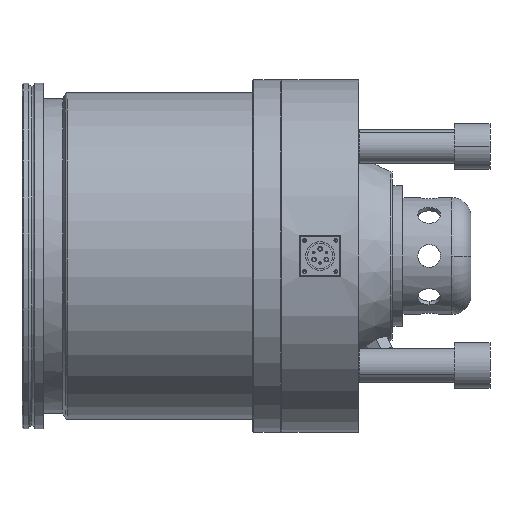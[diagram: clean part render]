
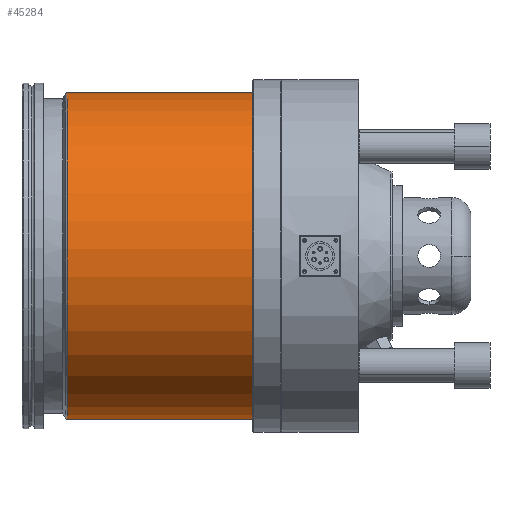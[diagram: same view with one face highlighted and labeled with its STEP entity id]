
A CAD part, left-side view. The second image highlights one B-rep face of the part: STEP entity #45284.
In plain terms, the highlighted cylindrical face has radius 137 mm (diameter 274 mm), a partial arc.
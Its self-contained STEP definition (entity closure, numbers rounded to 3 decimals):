
#4977 = VERTEX_POINT ( 'NONE', #13608 ) ;
#7502 = ORIENTED_EDGE ( 'NONE', *, *, #42895, .T. ) ;
#8479 = CIRCLE ( 'NONE', #37109, 137. ) ;
#8613 = VERTEX_POINT ( 'NONE', #18800 ) ;
#9316 = CYLINDRICAL_SURFACE ( 'NONE', #35740, 137. ) ;
#12485 = CARTESIAN_POINT ( 'NONE',  ( 0.015, -122.014, -137. ) ) ;
#12585 = ORIENTED_EDGE ( 'NONE', *, *, #38657, .F. ) ;
#12591 = DIRECTION ( 'NONE',  ( 0., -1., 0. ) ) ;
#13608 = CARTESIAN_POINT ( 'NONE',  ( 0.015, -175.5, -137. ) ) ;
#14828 = EDGE_LOOP ( 'NONE', ( #12585, #7502, #31427, #18161 ) ) ;
#17181 = VERTEX_POINT ( 'NONE', #26654 ) ;
#17715 = CIRCLE ( 'NONE', #37023, 137. ) ;
#18161 = ORIENTED_EDGE ( 'NONE', *, *, #43062, .T. ) ;
#18532 = CARTESIAN_POINT ( 'NONE',  ( 0.015, -175.5, 137. ) ) ;
#18800 = CARTESIAN_POINT ( 'NONE',  ( 0.015, -20.041, 137. ) ) ;
#23150 = VERTEX_POINT ( 'NONE', #18532 ) ;
#23726 = DIRECTION ( 'NONE',  ( 0., -1., 0. ) ) ;
#23860 = LINE ( 'NONE', #24072, #25321 ) ;
#24072 = CARTESIAN_POINT ( 'NONE',  ( 0.015, -122.014, 137. ) ) ;
#25256 = FACE_OUTER_BOUND ( 'NONE', #14828, .T. ) ;
#25321 = VECTOR ( 'NONE', #23726, 1000. ) ;
#25365 = VECTOR ( 'NONE', #12591, 1000. ) ;
#26361 = LINE ( 'NONE', #12485, #25365 ) ;
#26654 = CARTESIAN_POINT ( 'NONE',  ( 0.015, -20.041, -137. ) ) ;
#31427 = ORIENTED_EDGE ( 'NONE', *, *, #38712, .T. ) ;
#34035 = DIRECTION ( 'NONE',  ( 0., 0., -1. ) ) ;
#34088 = DIRECTION ( 'NONE',  ( 0., 1., 0. ) ) ;
#34143 = CARTESIAN_POINT ( 'NONE',  ( 0.015, -175.5, 0. ) ) ;
#34906 = DIRECTION ( 'NONE',  ( 0., 0., -1. ) ) ;
#34947 = DIRECTION ( 'NONE',  ( 0., -1., 0. ) ) ;
#34959 = CARTESIAN_POINT ( 'NONE',  ( 0.015, -20.041, 0. ) ) ;
#35740 = AXIS2_PLACEMENT_3D ( 'NONE', #38140, #39178, #38135 ) ;
#37023 = AXIS2_PLACEMENT_3D ( 'NONE', #34143, #34088, #34035 ) ;
#37109 = AXIS2_PLACEMENT_3D ( 'NONE', #34959, #34947, #34906 ) ;
#38135 = DIRECTION ( 'NONE',  ( 0., 0., -1. ) ) ;
#38140 = CARTESIAN_POINT ( 'NONE',  ( 0.015, -122.014, 0. ) ) ;
#38657 = EDGE_CURVE ( 'NONE', #8613, #23150, #23860, .T. ) ;
#38712 = EDGE_CURVE ( 'NONE', #17181, #4977, #26361, .T. ) ;
#39178 = DIRECTION ( 'NONE',  ( 0., -1., 0. ) ) ;
#42895 = EDGE_CURVE ( 'NONE', #8613, #17181, #8479, .T. ) ;
#43062 = EDGE_CURVE ( 'NONE', #4977, #23150, #17715, .T. ) ;
#45284 = ADVANCED_FACE ( 'NONE', ( #25256 ), #9316, .T. ) ;
